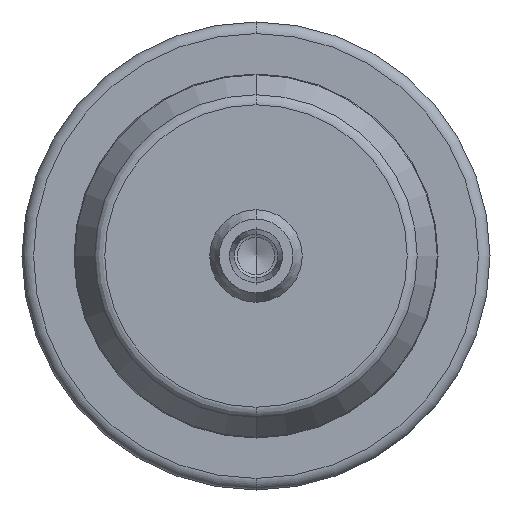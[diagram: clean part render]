
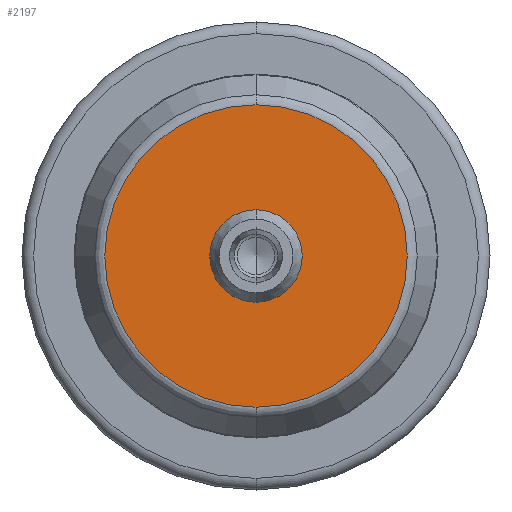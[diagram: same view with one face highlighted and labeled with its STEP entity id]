
A CAD part, front view. The second image highlights one B-rep face of the part: STEP entity #2197.
In plain terms, the highlighted planar face has unit normal (0, -1, 0).
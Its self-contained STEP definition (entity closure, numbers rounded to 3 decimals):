
#43 = CARTESIAN_POINT ( 'NONE',  ( 0., -17., 26.17 ) ) ;
#510 = ORIENTED_EDGE ( 'NONE', *, *, #1940, .F. ) ;
#551 = CIRCLE ( 'NONE', #1055, 6. ) ;
#597 = DIRECTION ( 'NONE',  ( 0., 0., -1. ) ) ;
#673 = CIRCLE ( 'NONE', #3194, 26.17 ) ;
#815 = DIRECTION ( 'NONE',  ( 0., 0., -1. ) ) ;
#817 = CARTESIAN_POINT ( 'NONE',  ( 0., -17., 6. ) ) ;
#844 = ORIENTED_EDGE ( 'NONE', *, *, #2930, .T. ) ;
#1055 = AXIS2_PLACEMENT_3D ( 'NONE', #1941, #2714, #2694 ) ;
#1583 = CARTESIAN_POINT ( 'NONE',  ( 0., -17., -26.17 ) ) ;
#1616 = EDGE_CURVE ( 'NONE', #3991, #3454, #551, .T. ) ;
#1645 = AXIS2_PLACEMENT_3D ( 'NONE', #2308, #4132, #597 ) ;
#1711 = DIRECTION ( 'NONE',  ( 0., -1., 0. ) ) ;
#1904 = CARTESIAN_POINT ( 'NONE',  ( 0., -17., -6. ) ) ;
#1940 = EDGE_CURVE ( 'NONE', #3454, #3991, #2054, .T. ) ;
#1941 = CARTESIAN_POINT ( 'NONE',  ( 0., -17., 0. ) ) ;
#1975 = ORIENTED_EDGE ( 'NONE', *, *, #1616, .F. ) ;
#1976 = AXIS2_PLACEMENT_3D ( 'NONE', #3923, #2252, #815 ) ;
#2054 = CIRCLE ( 'NONE', #1976, 6. ) ;
#2197 = ADVANCED_FACE ( 'NONE', ( #2359, #4037 ), #3432, .T. ) ;
#2229 = AXIS2_PLACEMENT_3D ( 'NONE', #3948, #2880, #3931 ) ;
#2252 = DIRECTION ( 'NONE',  ( 0., -1., 0. ) ) ;
#2308 = CARTESIAN_POINT ( 'NONE',  ( 26.17, -17., 0. ) ) ;
#2359 = FACE_OUTER_BOUND ( 'NONE', #3390, .T. ) ;
#2694 = DIRECTION ( 'NONE',  ( 0., 0., -1. ) ) ;
#2714 = DIRECTION ( 'NONE',  ( 0., -1., 0. ) ) ;
#2880 = DIRECTION ( 'NONE',  ( 0., -1., 0. ) ) ;
#2930 = EDGE_CURVE ( 'NONE', #3693, #3047, #4487, .T. ) ;
#3047 = VERTEX_POINT ( 'NONE', #1583 ) ;
#3106 = CARTESIAN_POINT ( 'NONE',  ( 0., -17., 0. ) ) ;
#3129 = DIRECTION ( 'NONE',  ( 0., 0., -1. ) ) ;
#3194 = AXIS2_PLACEMENT_3D ( 'NONE', #3106, #1711, #3129 ) ;
#3390 = EDGE_LOOP ( 'NONE', ( #3523, #844 ) ) ;
#3432 = PLANE ( 'NONE',  #1645 ) ;
#3454 = VERTEX_POINT ( 'NONE', #817 ) ;
#3523 = ORIENTED_EDGE ( 'NONE', *, *, #3713, .T. ) ;
#3693 = VERTEX_POINT ( 'NONE', #43 ) ;
#3713 = EDGE_CURVE ( 'NONE', #3047, #3693, #673, .T. ) ;
#3923 = CARTESIAN_POINT ( 'NONE',  ( 0., -17., 0. ) ) ;
#3931 = DIRECTION ( 'NONE',  ( 0., 0., -1. ) ) ;
#3948 = CARTESIAN_POINT ( 'NONE',  ( 0., -17., 0. ) ) ;
#3991 = VERTEX_POINT ( 'NONE', #1904 ) ;
#4037 = FACE_BOUND ( 'NONE', #4333, .T. ) ;
#4132 = DIRECTION ( 'NONE',  ( 0., -1., 0. ) ) ;
#4333 = EDGE_LOOP ( 'NONE', ( #1975, #510 ) ) ;
#4487 = CIRCLE ( 'NONE', #2229, 26.17 ) ;
